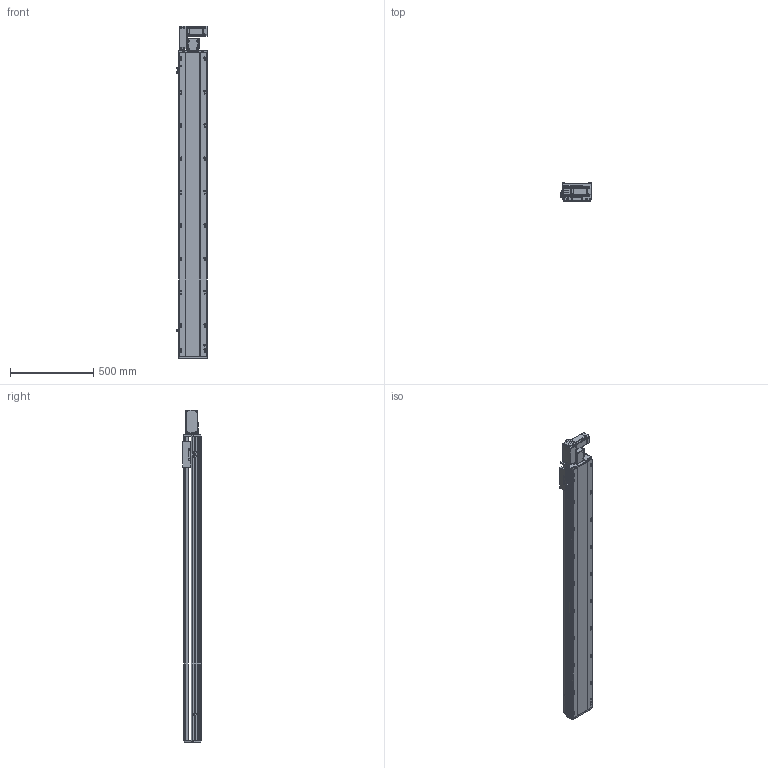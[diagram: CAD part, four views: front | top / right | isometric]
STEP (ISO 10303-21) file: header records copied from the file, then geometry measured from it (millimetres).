
FILE_DESCRIPTION (( 'STEP AP214' ), '1' );
FILE_NAME ('RTB17S-XX-1550-L-M40-C4.STEP', '2025-12-11T05:46:15', ( '' ), ( '' ), 'SwSTEP 2.0', 'SolidWorks 2018', '' );
FILE_SCHEMA (( 'AUTOMOTIVE_DESIGN' ));
Length unit declared in the file: millimetre
Products named in the file (14): 400W伺服电机^RTB17S-XX-XX-L-M40-C4（方程式）; RTB17S-XX-1550-L-M40-C4; RTB14-L-018P^RTB17S-L-皮带座装配-400W_RTB17S-XX-XX-L-M40-C4（方程式）; RTB14-L-017P^RTB17S-L-皮带座装配-400W_RTB17S-XX-XX-L-M40-C4（方程式）; RMP17S-L-014-T20--皮带座^RTB17S-L-皮带座装配-400W_RTB17S-XX-XX-L-M40-C4（方程式）; RTB17S-L-004丝杆螺母连接座^RTB17S-XX-XX-L-M40-C4（方程式）; OMRON EE-SX672 传感器^RTB17S-XX-XX-L-M40-C4（方程式）; RTB14-L-008-M20--电机板^RTB17S-L-皮带座装配-400W_RTB17S-XX-XX-L-M40-C4（方程式）; RTB17S-L-皮带座装配-400W^RTB17S-XX-XX-L-M40-C4（方程式）; RTB17S-L-007上盖^RTB17S-XX-XX-L-M40-C4（方程式）; RTB17S-L-001侧面板^RTB17S-XX-XX-L-M40-C4（方程式）; RTH13-BL-012感应片外置^RTB17S-XX-XX-L-M40-C4（方程式）; RTB17-R-011底座^RTB17S-XX-XX-L-M40-C4（方程式）; RTB14-L-005P--轴承塑胶压盖^RTB17S-L-皮带座装配-400W_RTB17S-XX-XX-L-M40-C4（方程式）
Assembly tree (16 placements, depth 3):
  RTB17S-XX-1550-L-M40-C4
    RTB17-R-011底座^RTB17S-XX-XX-L-M40-C4（方程式）
    RTB17S-L-007上盖^RTB17S-XX-XX-L-M40-C4（方程式）
    OMRON EE-SX672 传感器^RTB17S-XX-XX-L-M40-C4（方程式）  x3
    RTB17S-L-001侧面板^RTB17S-XX-XX-L-M40-C4（方程式）
    400W伺服电机^RTB17S-XX-XX-L-M40-C4（方程式）
    RTB17S-L-004丝杆螺母连接座^RTB17S-XX-XX-L-M40-C4（方程式）
    RTH13-BL-012感应片外置^RTB17S-XX-XX-L-M40-C4（方程式）
    RTB17S-L-皮带座装配-400W^RTB17S-XX-XX-L-M40-C4（方程式）
      RMP17S-L-014-T20--皮带座^RTB17S-L-皮带座装配-400W_RTB17S-XX-XX-L-M40-C4（方程式）
      RTB14-L-005P--轴承塑胶压盖^RTB17S-L-皮带座装配-400W_RTB17S-XX-XX-L-M40-C4（方程式）
      RTB14-L-008-M20--电机板^RTB17S-L-皮带座装配-400W_RTB17S-XX-XX-L-M40-C4（方程式）
      RTB14-L-017P^RTB17S-L-皮带座装配-400W_RTB17S-XX-XX-L-M40-C4（方程式）  x2
      RTB14-L-018P^RTB17S-L-皮带座装配-400W_RTB17S-XX-XX-L-M40-C4（方程式）
Bounding box: 186 x 108 x 1991 mm (x, y, z)
Volume: 16859563.8 mm3; surface area: 1987175.1 mm2
Topology: 15 solids, 15 shells, 2253 faces, 6249 edges, 4077 vertices
Faces by surface type: plane 1074, cylinder 731, bspline 301, cone 139, torus 8
Entity records: 64937 total; most frequent: CARTESIAN_POINT 18254, ORIENTED_EDGE 9342, DIRECTION 8666, EDGE_CURVE 4671, VERTEX_POINT 3065, AXIS2_PLACEMENT_3D 2995, VECTOR 2676, LINE 2676
